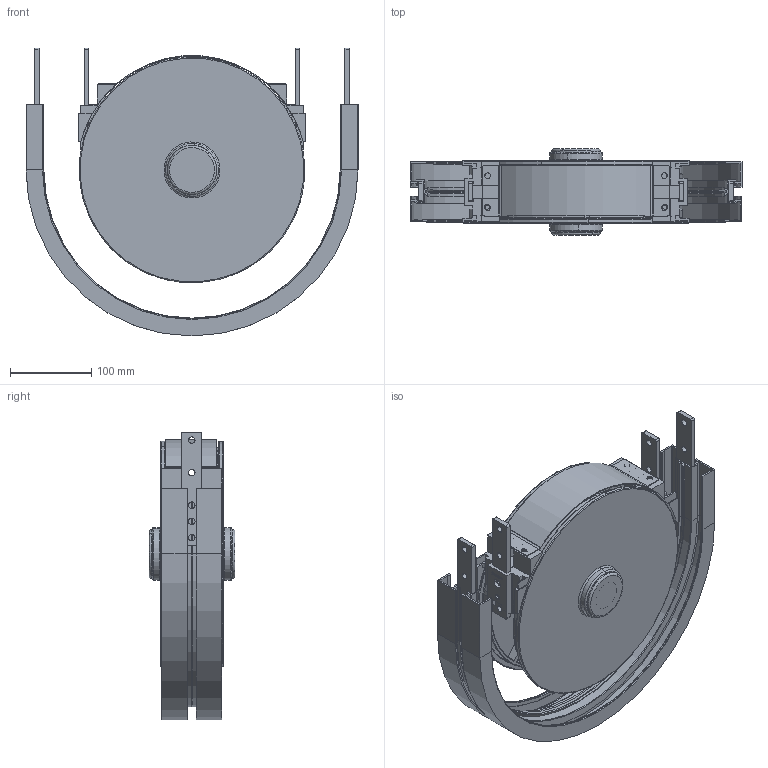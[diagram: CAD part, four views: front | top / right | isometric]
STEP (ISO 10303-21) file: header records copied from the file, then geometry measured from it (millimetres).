
FILE_DESCRIPTION (( 'STEP AP214' ), '1' );
FILE_NAME ('FMWB180R160A.STEP', '2012-04-03T13:03:32', ( 'gs' ), ( 'Microsoft' ), 'SwSTEP 2.0', 'SolidWorks 2011', '' );
FILE_SCHEMA (( 'AUTOMOTIVE_DESIGN' ));
Length unit declared in the file: millimetre
Products named in the file (12): WH63002-1; FM-6004ZZ; FM-20 ExternalCirclip; FM-WH278063; FM-Courbe_180<Brut d''usinage>; FM-WH08002A-3_Default; FM-WHA-FM001_Default; FM-FM WH83001-0_Default; FM-WH08001A-3_Default; FM-FAEC-WH_Default; FM-FACS-25X140A_Default; FMWB180R160A
Assembly tree (24 placements, depth 2):
  FMWB180R160A
    FM-20 ExternalCirclip  x5
    FM-FACS-25X140A_Default  x4
    FM-WHA-FM001_Default
    FM-6004ZZ  x4
    FM-WH278063  x2
    FM-WH08001A-3_Default
    FM-FAEC-WH_Default  x2
    WH63002-1
    FM-FM WH83001-0_Default  x2
    FM-WH08002A-3_Default
    FM-Courbe_180<Brut d''usinage>
Bounding box: 408.44 x 105.8 x 354.22 mm (x, y, z)
Volume: 1810569.5 mm3; surface area: 824305 mm2
Topology: 24 solids, 24 shells, 1237 faces, 3219 edges, 2100 vertices
Faces by surface type: plane 638, cylinder 404, bspline 88, torus 77, cone 30
Entity records: 26366 total; most frequent: CARTESIAN_POINT 8246, ORIENTED_EDGE 3548, DIRECTION 3462, EDGE_CURVE 1774, AXIS2_PLACEMENT_3D 1191, VERTEX_POINT 1140, VECTOR 1080, LINE 1080
